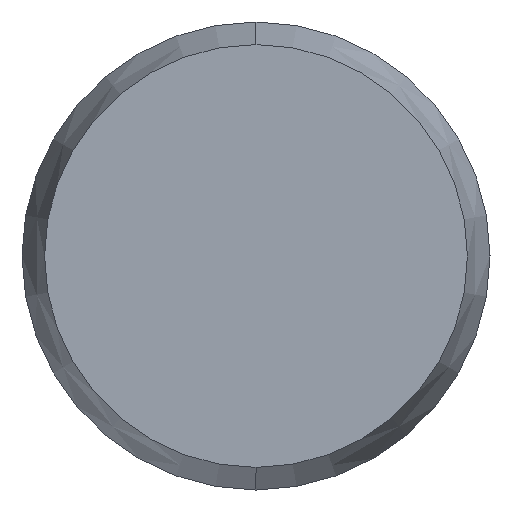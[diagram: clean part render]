
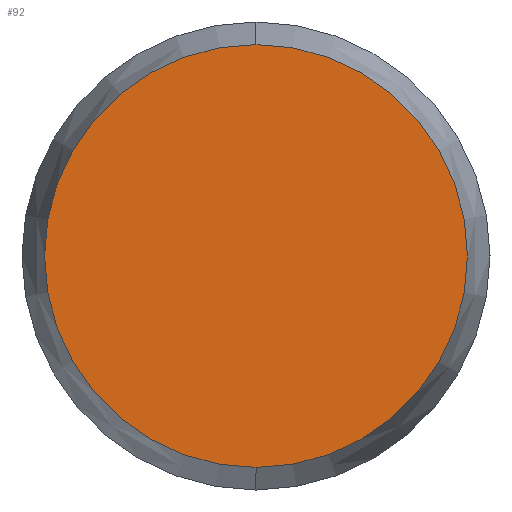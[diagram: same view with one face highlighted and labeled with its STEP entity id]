
A CAD part, left-side view. The second image highlights one B-rep face of the part: STEP entity #92.
In plain terms, the highlighted planar face has unit normal (-1, 0, 0).
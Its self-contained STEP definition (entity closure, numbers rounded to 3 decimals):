
#28 = DIRECTION ( 'NONE',  ( 0., 0., -1. ) ) ;
#29 = DIRECTION ( 'NONE',  ( 1., 0., 0. ) ) ;
#30 = CARTESIAN_POINT ( 'NONE',  ( -3., 0., 0. ) ) ;
#32 = AXIS2_PLACEMENT_3D ( 'NONE', #30, #29, #28 ) ;
#33 = PLANE ( 'NONE',  #32 ) ;
#34 = FACE_OUTER_BOUND ( 'NONE', #93, .T. ) ;
#35 = DIRECTION ( 'NONE',  ( 0., 0., -1. ) ) ;
#36 = DIRECTION ( 'NONE',  ( 1., 0., 0. ) ) ;
#37 = CARTESIAN_POINT ( 'NONE',  ( -3., 0., 0. ) ) ;
#38 = AXIS2_PLACEMENT_3D ( 'NONE', #37, #36, #35 ) ;
#39 = CIRCLE ( 'NONE', #38, 1.129 ) ;
#89 = EDGE_CURVE ( 'NONE', #137, #136, #39, .T. ) ;
#92 = ADVANCED_FACE ( 'NONE', ( #34 ), #33, .F. ) ;
#93 = EDGE_LOOP ( 'NONE', ( #94, #95 ) ) ;
#94 = ORIENTED_EDGE ( 'NONE', *, *, #135, .F. ) ;
#95 = ORIENTED_EDGE ( 'NONE', *, *, #89, .F. ) ;
#135 = EDGE_CURVE ( 'NONE', #136, #137, #172, .T. ) ;
#136 = VERTEX_POINT ( 'NONE', #164 ) ;
#137 = VERTEX_POINT ( 'NONE', #163 ) ;
#163 = CARTESIAN_POINT ( 'NONE',  ( -3., 0., -1.129 ) ) ;
#164 = CARTESIAN_POINT ( 'NONE',  ( -3., 0., 1.129 ) ) ;
#165 = DIRECTION ( 'NONE',  ( 0., 0., -1. ) ) ;
#166 = DIRECTION ( 'NONE',  ( 1., 0., 0. ) ) ;
#167 = CARTESIAN_POINT ( 'NONE',  ( -3., 0., 0. ) ) ;
#168 = AXIS2_PLACEMENT_3D ( 'NONE', #167, #166, #165 ) ;
#172 = CIRCLE ( 'NONE', #168, 1.129 ) ;
